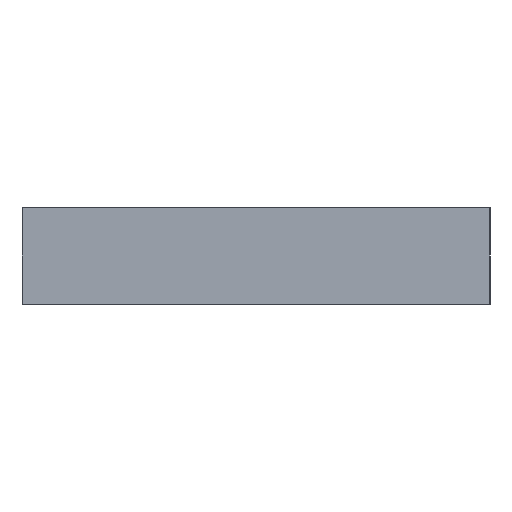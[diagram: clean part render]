
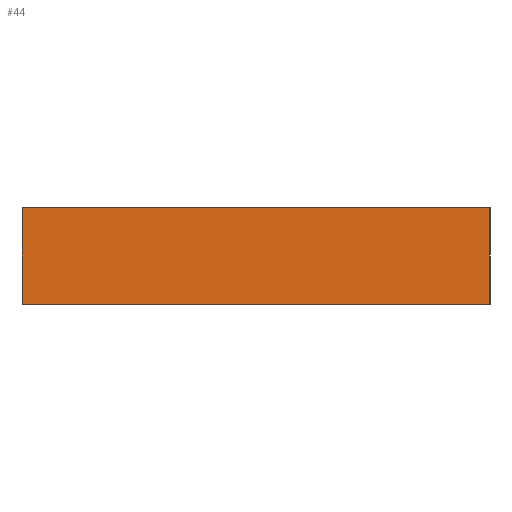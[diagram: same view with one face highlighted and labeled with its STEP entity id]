
A CAD part, left-side view. The second image highlights one B-rep face of the part: STEP entity #44.
In plain terms, the highlighted planar face has unit normal (-1, 0, 0).
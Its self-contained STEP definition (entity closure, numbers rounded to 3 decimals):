
#44 = ADVANCED_FACE( '', ( #98 ), #99, .F. );
#98 = FACE_OUTER_BOUND( '', #167, .T. );
#99 = PLANE( '', #168 );
#167 = EDGE_LOOP( '', ( #235, #236, #237, #238 ) );
#168 = AXIS2_PLACEMENT_3D( '', #239, #240, #241 );
#235 = ORIENTED_EDGE( '', *, *, #368, .T. );
#236 = ORIENTED_EDGE( '', *, *, #369, .F. );
#237 = ORIENTED_EDGE( '', *, *, #370, .F. );
#238 = ORIENTED_EDGE( '', *, *, #371, .T. );
#239 = CARTESIAN_POINT( '', ( -26., 0., 3.5 ) );
#240 = DIRECTION( '', ( 1., 0., 0. ) );
#241 = DIRECTION( '', ( 0., 0., -1. ) );
#368 = EDGE_CURVE( '', #422, #423, #424, .T. );
#369 = EDGE_CURVE( '', #425, #423, #426, .T. );
#370 = EDGE_CURVE( '', #427, #425, #428, .T. );
#371 = EDGE_CURVE( '', #427, #422, #429, .T. );
#422 = VERTEX_POINT( '', #500 );
#423 = VERTEX_POINT( '', #501 );
#424 = LINE( '', #502, #503 );
#425 = VERTEX_POINT( '', #504 );
#426 = LINE( '', #505, #506 );
#427 = VERTEX_POINT( '', #507 );
#428 = LINE( '', #508, #509 );
#429 = LINE( '', #510, #511 );
#500 = CARTESIAN_POINT( '', ( -26., 0., -3.5 ) );
#501 = CARTESIAN_POINT( '', ( -26., -34., -3.5 ) );
#502 = CARTESIAN_POINT( '', ( -26., 0., -3.5 ) );
#503 = VECTOR( '', #588, 1000. );
#504 = CARTESIAN_POINT( '', ( -26., -34., 3.5 ) );
#505 = CARTESIAN_POINT( '', ( -26., -34., 3.5 ) );
#506 = VECTOR( '', #589, 1000. );
#507 = CARTESIAN_POINT( '', ( -26., 0., 3.5 ) );
#508 = CARTESIAN_POINT( '', ( -26., 0., 3.5 ) );
#509 = VECTOR( '', #590, 1000. );
#510 = CARTESIAN_POINT( '', ( -26., 0., 3.5 ) );
#511 = VECTOR( '', #591, 1000. );
#588 = DIRECTION( '', ( 0., -1., 0. ) );
#589 = DIRECTION( '', ( 0., 0., -1. ) );
#590 = DIRECTION( '', ( 0., -1., 0. ) );
#591 = DIRECTION( '', ( 0., 0., -1. ) );
